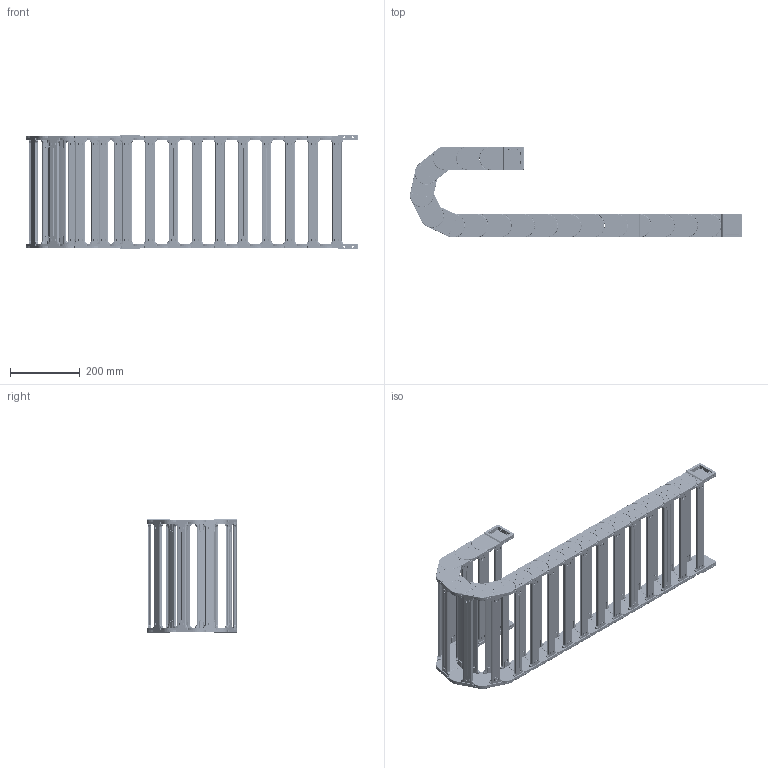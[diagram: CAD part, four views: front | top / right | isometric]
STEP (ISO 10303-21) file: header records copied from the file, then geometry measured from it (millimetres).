
FILE_DESCRIPTION (( 'STEP AP214' ), '1' );
FILE_NAME ('J45Q.1.300S-3D賦凳芞.STEP', '2019-01-10T00:16:42', ( 'Sky123.Org' ), ( 'Sky123.Org' ), 'SwSTEP 2.0', 'SolidWorks 2017', '' );
FILE_SCHEMA (( 'AUTOMOTIVE_DESIGN' ));
Length unit declared in the file: millimetre
Products named in the file (10): 5-N45X75-源諉俋; 45-N源諉芛俋; 5-N45X75-源諉囀; 45-臏簽1; 45-N源諉芛囀; 5-N45X100-1; J45.1結え; 45-崝Ч翋极2; 45-崝Ч翋极1-R250; J45Q.1.300S-3D賦凳芞
Assembly tree (55 placements, depth 3):
  J45Q.1.300S-3D賦凳芞
    5-N45X100-1  x17
      45-崝Ч翋极1-R250
      45-崝Ч翋极2
      J45.1結え
    5-N45X75-源諉囀
      45-N源諉芛囀  x2
      J45.1結え  x2
      45-臏簽1  x12
    5-N45X75-源諉俋
      45-N源諉芛俋  x2
      J45.1結え  x2
      45-臏簽1  x12
Bounding box: 954.91 x 261 x 329 mm (x, y, z)
Volume: 4440793.1 mm3; surface area: 1707674.7 mm2
Topology: 100 solids, 100 shells, 20080 faces, 51658 edges, 31520 vertices
Faces by surface type: plane 7348, cylinder 6440, bspline 3788, torus 1508, sphere 768, cone 228
Entity records: 33152 total; most frequent: CARTESIAN_POINT 10875, ORIENTED_EDGE 4608, DIRECTION 4494, EDGE_CURVE 2304, AXIS2_PLACEMENT_3D 1615, VERTEX_POINT 1438, VECTOR 1264, LINE 1264
